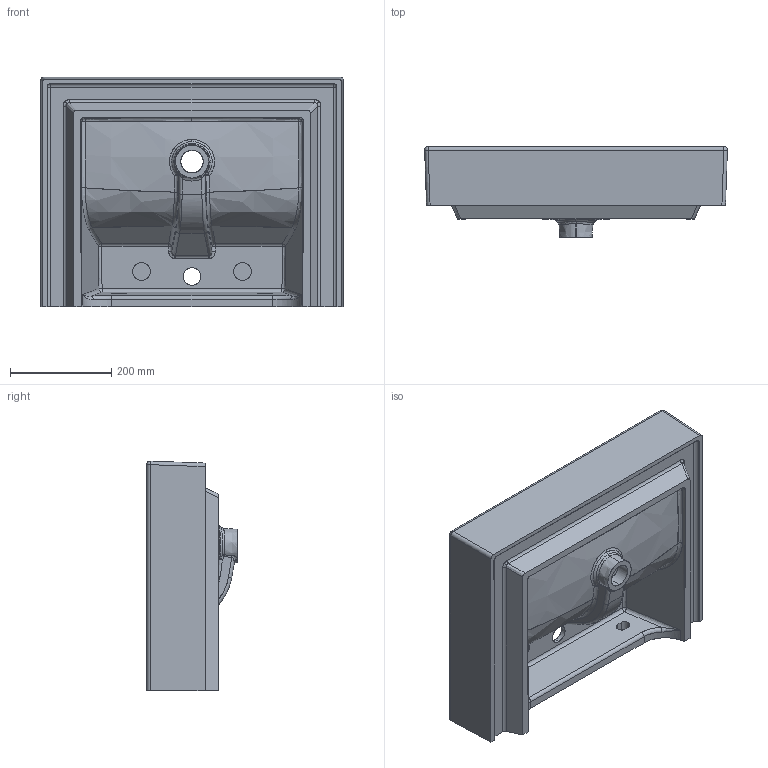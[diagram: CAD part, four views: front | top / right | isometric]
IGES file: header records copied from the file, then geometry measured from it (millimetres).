
Start section: SolidWorks IGES file using analytic representation for surfaces
Global section: file name: C:\Users\UTENTE 1\Desktop\3D LAVABI VELCA\VELCA60.IGS; native system: SolidWorks 2013; preprocessor: SolidWorks 2013; author: UTENTE 1; date: 141013.173120; units: millimetre
Bounding box: 599.49 x 180 x 454.75 mm (x, y, z)
Surface area: 1007911.1 mm2 (no closed solid volume)
Topology: 0 solids, 0 shells, 189 faces, 3479 edges, 3910 vertices
Faces by surface type: bspline 122, revolution 67
